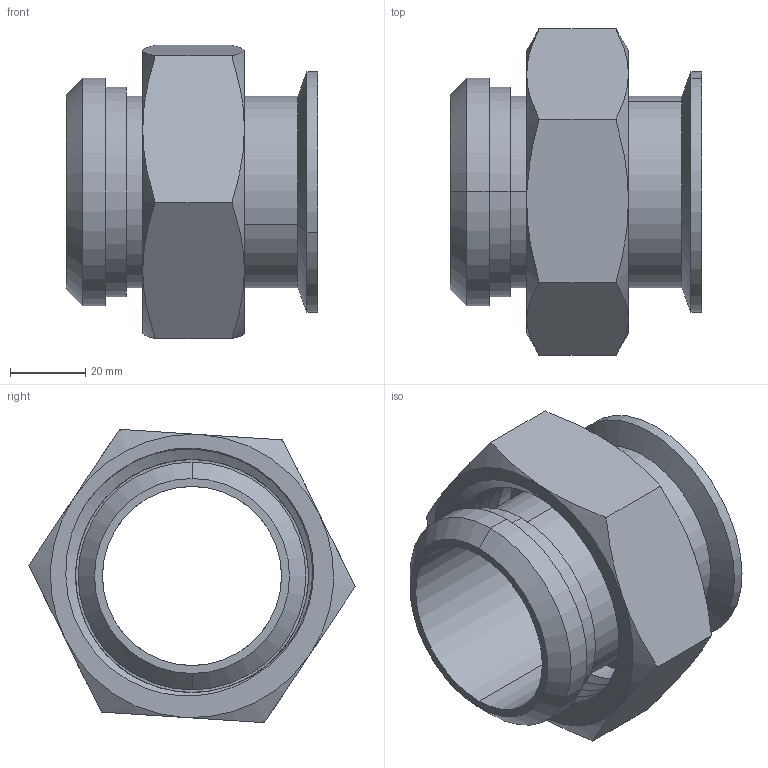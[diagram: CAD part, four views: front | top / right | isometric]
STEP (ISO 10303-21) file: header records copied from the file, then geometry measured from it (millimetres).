
FILE_DESCRIPTION (( 'STEP AP203' ), '1' );
FILE_NAME ('EG17PR2.0.STEP', '2021-10-05T20:16:20', ( '' ), ( '' ), 'SwSTEP 2.0', 'SolidWorks 2021', '' );
FILE_SCHEMA (( 'CONFIG_CONTROL_DESIGN' ));
Length unit declared in the file: inch
Products named in the file (4): EG17PR2.0; 14A2.0; 13H2.0; EG14AM72.0
Assembly tree (3 placements, depth 2):
  EG17PR2.0
    14A2.0
    EG14AM72.0
    13H2.0
Bounding box: 66.67 x 86.57 x 77.79 mm (x, y, z)
Volume: 73306.9 mm3; surface area: 45774.4 mm2
Topology: 3 solids, 3 shells, 91 faces, 217 edges, 136 vertices
Faces by surface type: plane 30, cylinder 29, cone 22, torus 6, bspline 4
Entity records: 6259 total; most frequent: CARTESIAN_POINT 3811, ORIENTED_EDGE 434, DIRECTION 426, EDGE_CURVE 217, AXIS2_PLACEMENT_3D 177, VERTEX_POINT 136, EDGE_LOOP 101, FACE_OUTER_BOUND 91
